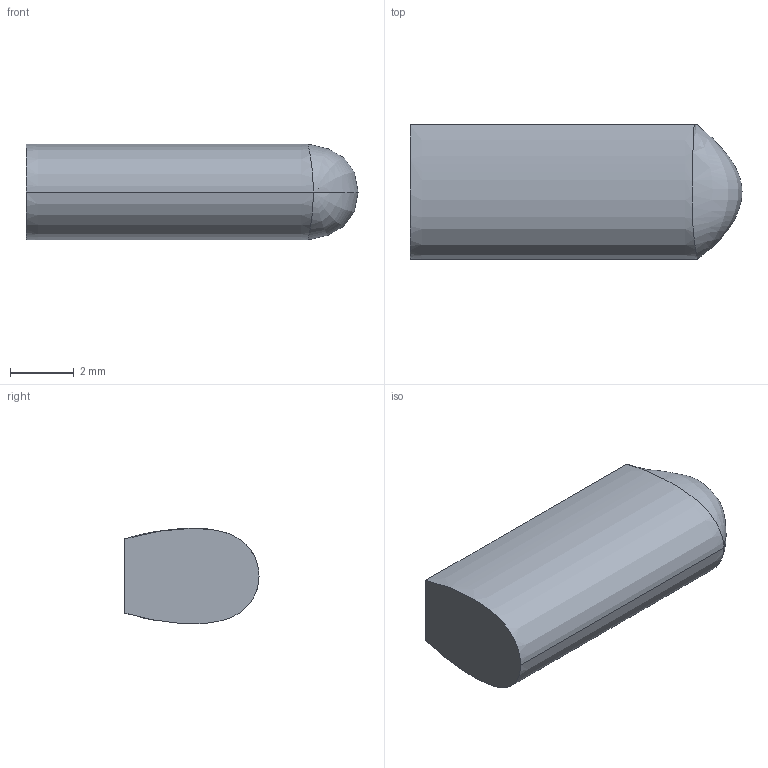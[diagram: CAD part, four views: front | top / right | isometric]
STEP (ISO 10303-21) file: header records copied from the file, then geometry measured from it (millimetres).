
FILE_DESCRIPTION((''),'1');
FILE_NAME('ELEK-ST14-18R','2001-03-30T',('rgoetz'),(''),'PRO/ENGINEER BY PARAMETRIC TECHNOLOGY CORPORATION, 2000350','PRO/ENGINEER BY PARAMETRIC TECHNOLOGY CORPORATION, 2000350','');
FILE_SCHEMA(('CONFIG_CONTROL_DESIGN'));
Length unit declared in the file: millimetre
Products named in the file (1): ELEK-ST14-18R
Bounding box: 10.4 x 4.2 x 3 mm (x, y, z)
Volume: 106.9 mm3; surface area: 139.2 mm2
Topology: 1 solids, 1 shells, 6 faces, 13 edges, 7 vertices
Faces by surface type: plane 2, extrusion 2, bspline 2
Entity records: 668 total; most frequent: CARTESIAN_POINT 527, ORIENTED_EDGE 22, EDGE_CURVE 11, DIRECTION 10, B_SPLINE_CURVE_WITH_KNOTS 9, VERTEX_POINT 7, VECTOR 6, EDGE_LOOP 6
